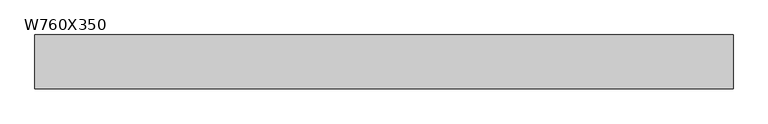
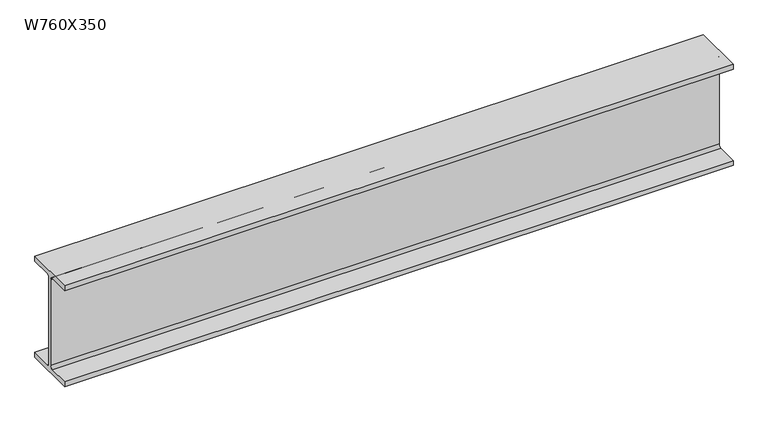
"""IFC4 building model written with IfcOpenShell, lengths in millimetres: beam geometry, M_W-Wide Flange : W760X350."""

from ifc_helpers import new_model, si_unit, point, frame, frame_2d, origin, place, context, project, spatial, polyline, circle_curve, trimmed, segment, composite_curve, outline, extrude, source, transform, mapped, element, save


def w760x350_f451a6df(model_context):
    return source(origin(), model_context, "Body", "SweptSolid", [
        extrude(outline(composite_curve([segment(polyline([(192.0, -359.4), (192.0, -397.5), (-192.0, -397.5), (-192.0, -359.4), (-32.75, -359.4)]), True, "CONTINUOUS"), segment(trimmed(circle_curve(frame_2d((-32.75, -337.2)), 22.2), [point((-32.75, -359.4))], [point((-10.55, -337.2))], True, "CARTESIAN"), True, "CONTINUOUS"), segment(polyline([(-10.55, -337.2), (-10.55, 337.2)]), True, "CONTINUOUS"), segment(trimmed(circle_curve(frame_2d((-32.75, 337.2)), 22.2), [point((-10.55, 337.2))], [point((-32.75, 359.4))], True, "CARTESIAN"), True, "CONTINUOUS"), segment(polyline([(-32.75, 359.4), (-192.0, 359.4), (-192.0, 397.5), (192.0, 397.5), (192.0, 359.4), (32.75, 359.4)]), True, "CONTINUOUS"), segment(trimmed(circle_curve(frame_2d((32.75, 337.2)), 22.2), [point((32.75, 359.4))], [point((10.55, 337.2))], True, "CARTESIAN"), True, "CONTINUOUS"), segment(polyline([(10.55, 337.2), (10.55, -337.2)]), True, "CONTINUOUS"), segment(trimmed(circle_curve(frame_2d((32.75, -337.2)), 22.2), [point((10.55, -337.2))], [point((32.75, -359.4))], True, "CARTESIAN"), True, "CONTINUOUS"), segment(polyline([(32.75, -359.4), (192.0, -359.4)]), True, "CONTINUOUS")], self_intersect=False)), frame((-3447.6039591, 0.0, 0.0), z_axis=(1.0, 0.0, 0.0), x_axis=(0.0, 1.0, 0.0)), (0.0, 0.0, 1.0), 4979.2407365),
    ])


if __name__ == "__main__":
    model = new_model("IFC4")
    model_context = context("Model", 3, world=origin())
    ifc_project = project(units=[si_unit("LENGTHUNIT", "METRE", prefix="MILLI")], contexts=[model_context])
    site = spatial("IfcSite", under=ifc_project)
    building = spatial("IfcBuilding", under=site)
    placement = place(None, origin())
    w760x350_shape = w760x350_f451a6df(model_context)
    element("IfcBeam", 1, ObjectType="M_W-Wide Flange : W760X350", at=placement, inside=building, context=model_context, shape_type="MappedRepresentation", body=[
        mapped(w760x350_shape, transform((0.0, 0.0, 0.0), x_axis=(1.0, 0.0, 0.0), y_axis=(0.0, 1.0, 0.0), z_axis=(0.0, 0.0, 1.0))),
    ])
    save(model, "model.ifc")
